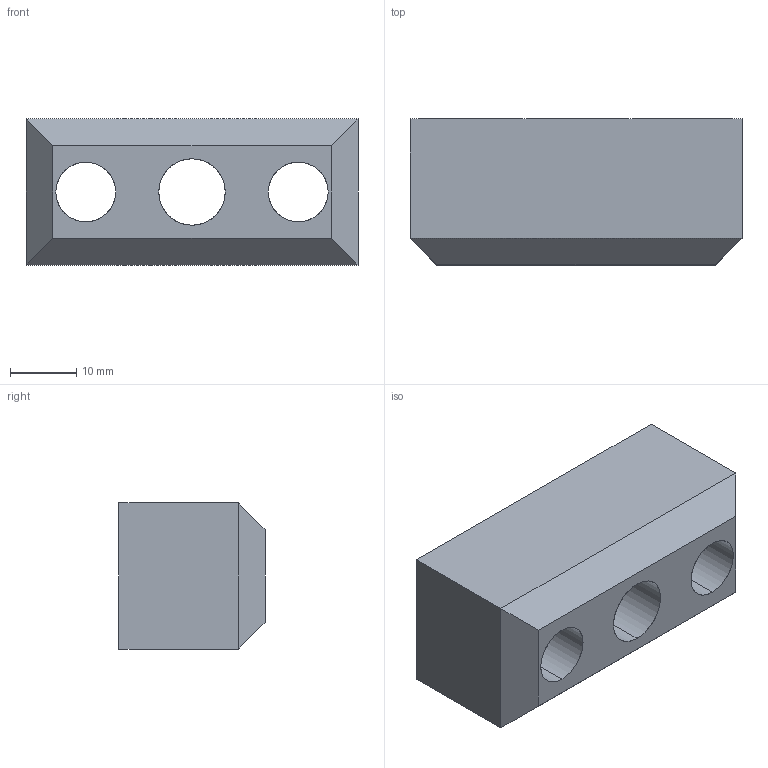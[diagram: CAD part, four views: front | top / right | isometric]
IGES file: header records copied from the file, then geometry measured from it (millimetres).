
Start section: START RECORD GO HERE.
Global section: file name: 761-022050.igs; native system: DASSAULT SYSTEMES CATIA V5 R20 - www.3ds.com; preprocessor: CATIA Version 5 Release 20 ; author: Utente; organization: NB04-ASUS; date: 20200411.201142; units: millimetre
Bounding box: 50 x 22 x 22 mm (x, y, z)
Surface area: 7124.7 mm2 (no closed solid volume)
Topology: 0 solids, 0 shells, 25 faces, 112 edges, 112 vertices
Faces by surface type: extrusion 13, revolution 12
